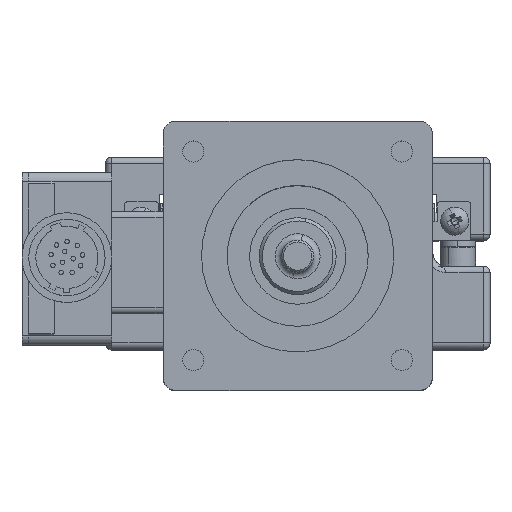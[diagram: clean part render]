
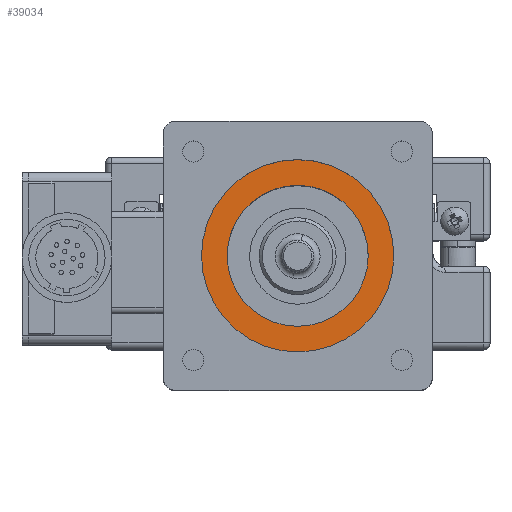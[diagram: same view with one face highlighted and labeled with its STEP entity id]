
A CAD part, top view. The second image highlights one B-rep face of the part: STEP entity #39034.
In plain terms, the highlighted planar face has unit normal (0, 0, 1).
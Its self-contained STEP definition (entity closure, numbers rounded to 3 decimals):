
#2269 = DIRECTION ( 'NONE',  ( 0., 0., 1. ) ) ;
#3625 = CARTESIAN_POINT ( 'NONE',  ( 15., 14.5, 52. ) ) ;
#7366 = DIRECTION ( 'NONE',  ( 0., 0., -1. ) ) ;
#7885 = ORIENTED_EDGE ( 'NONE', *, *, #124033, .T. ) ;
#8501 = VERTEX_POINT ( 'NONE', #50876 ) ;
#8959 = DIRECTION ( 'NONE',  ( 1., 0., 0. ) ) ;
#11221 = DIRECTION ( 'NONE',  ( 0., 0., 1. ) ) ;
#24348 = VERTEX_POINT ( 'NONE', #3625 ) ;
#26788 = AXIS2_PLACEMENT_3D ( 'NONE', #126264, #2269, #69861 ) ;
#30200 = EDGE_CURVE ( 'NONE', #8501, #24348, #142920, .T. ) ;
#32514 = CIRCLE ( 'NONE', #108371, 11. ) ;
#34969 = VERTEX_POINT ( 'NONE', #108373 ) ;
#38695 = ORIENTED_EDGE ( 'NONE', *, *, #30200, .T. ) ;
#39034 = ADVANCED_FACE ( 'NONE', ( #110742, #78067 ), #88480, .T. ) ;
#40754 = ORIENTED_EDGE ( 'NONE', *, *, #98443, .T. ) ;
#42808 = AXIS2_PLACEMENT_3D ( 'NONE', #88415, #110680, #8959 ) ;
#47309 = EDGE_LOOP ( 'NONE', ( #40754, #38695 ) ) ;
#50876 = CARTESIAN_POINT ( 'NONE',  ( -15., 14.5, 52. ) ) ;
#63783 = CARTESIAN_POINT ( 'NONE',  ( 0., 14.5, 52. ) ) ;
#64725 = EDGE_CURVE ( 'NONE', #34969, #112757, #32514, .T. ) ;
#65860 = ORIENTED_EDGE ( 'NONE', *, *, #64725, .T. ) ;
#69861 = DIRECTION ( 'NONE',  ( 1., 0., 0. ) ) ;
#78067 = FACE_OUTER_BOUND ( 'NONE', #47309, .T. ) ;
#81718 = AXIS2_PLACEMENT_3D ( 'NONE', #124073, #11221, #123348 ) ;
#86469 = EDGE_LOOP ( 'NONE', ( #7885, #65860 ) ) ;
#87578 = DIRECTION ( 'NONE',  ( 1., 0., 0. ) ) ;
#88415 = CARTESIAN_POINT ( 'NONE',  ( 0., 14.5, 52. ) ) ;
#88480 = PLANE ( 'NONE',  #81718 ) ;
#98443 = EDGE_CURVE ( 'NONE', #24348, #8501, #106796, .T. ) ;
#105050 = CIRCLE ( 'NONE', #128759, 11. ) ;
#106796 = CIRCLE ( 'NONE', #42808, 15. ) ;
#108371 = AXIS2_PLACEMENT_3D ( 'NONE', #63783, #7366, #87578 ) ;
#108373 = CARTESIAN_POINT ( 'NONE',  ( -11., 14.5, 52. ) ) ;
#110680 = DIRECTION ( 'NONE',  ( 0., 0., 1. ) ) ;
#110742 = FACE_BOUND ( 'NONE', #86469, .T. ) ;
#110818 = CARTESIAN_POINT ( 'NONE',  ( 0., 14.5, 52. ) ) ;
#112757 = VERTEX_POINT ( 'NONE', #124291 ) ;
#123348 = DIRECTION ( 'NONE',  ( 1., 0., 0. ) ) ;
#124033 = EDGE_CURVE ( 'NONE', #112757, #34969, #105050, .T. ) ;
#124073 = CARTESIAN_POINT ( 'NONE',  ( 0., 14.5, 52. ) ) ;
#124142 = DIRECTION ( 'NONE',  ( 0., 0., -1. ) ) ;
#124291 = CARTESIAN_POINT ( 'NONE',  ( 11., 14.5, 52. ) ) ;
#126264 = CARTESIAN_POINT ( 'NONE',  ( 0., 14.5, 52. ) ) ;
#128759 = AXIS2_PLACEMENT_3D ( 'NONE', #110818, #124142, #135969 ) ;
#135969 = DIRECTION ( 'NONE',  ( 1., 0., 0. ) ) ;
#142920 = CIRCLE ( 'NONE', #26788, 15. ) ;
